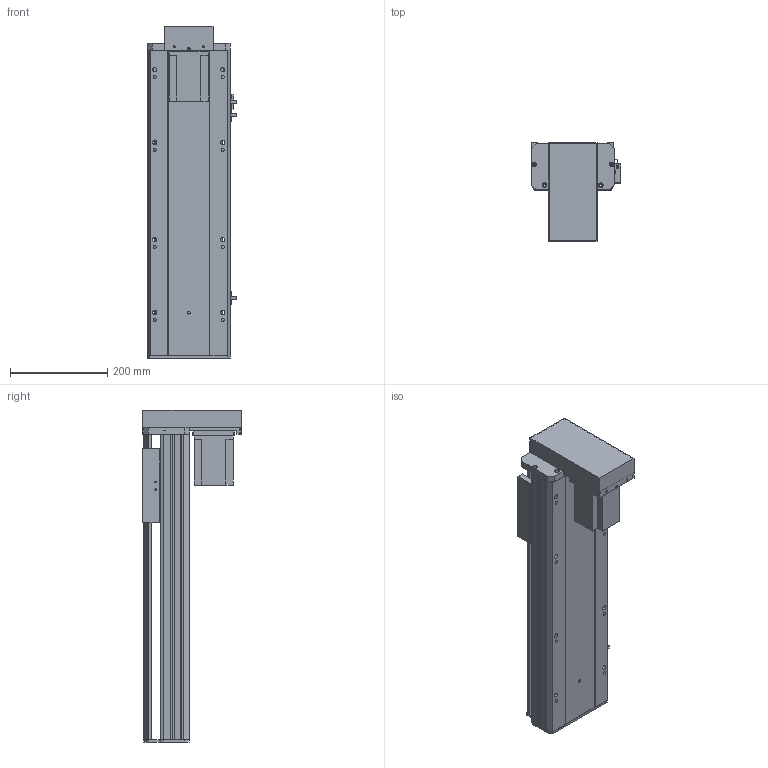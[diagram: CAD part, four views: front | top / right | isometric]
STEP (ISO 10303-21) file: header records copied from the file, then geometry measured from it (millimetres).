
FILE_DESCRIPTION (( 'STEP AP203' ), '1' );
FILE_NAME ('Y170-D10-S400-BM-P750W.STEP', '2020-01-22T02:54:57', ( '微软用户' ), ( '微软中国' ), 'SwSTEP 2.0', 'SolidWorks 2017', '' );
FILE_SCHEMA (( 'CONFIG_CONTROL_DESIGN' ));
Length unit declared in the file: millimetre
Products named in the file (12): Y170-陔遴奻裔-BR; 170-BM耜蚾蟀諉啣; Y170-BM--P750W楊擘啣; -BM俋袗; Y170耜裔--準---; YD-Y100-135-新外置传感挡片(通用）; 170--掛极-BR; Y100-135俋离換覜ん; 侂狟750W; Y170-D10-S400-BM-P750W; EGH20賑輸_蕼偞; Y雄赽釱-耜蚾
Assembly tree (14 placements, depth 2):
  Y170-D10-S400-BM-P750W
    Y170耜裔--準---
    170--掛极-BR
    侂狟750W
    EGH20賑輸_蕼偞  x2
    Y雄赽釱-耜蚾
    Y170-陔遴奻裔-BR
    170-BM耜蚾蟀諉啣
    Y170-BM--P750W楊擘啣
    -BM俋袗
    YD-Y100-135-新外置传感挡片(通用）
    Y100-135俋离換覜ん  x3
Bounding box: 183.5 x 203.5 x 683.5 mm (x, y, z)
Volume: 3825572.6 mm3; surface area: 1249203.7 mm2
Topology: 14 solids, 14 shells, 882 faces, 2460 edges, 1622 vertices
Faces by surface type: plane 436, cylinder 430, cone 16
Entity records: 27546 total; most frequent: CARTESIAN_POINT 4767, DIRECTION 4584, ORIENTED_EDGE 4416, EDGE_CURVE 2208, AXIS2_PLACEMENT_3D 1619, VERTEX_POINT 1466, LINE 1346, VECTOR 1346
